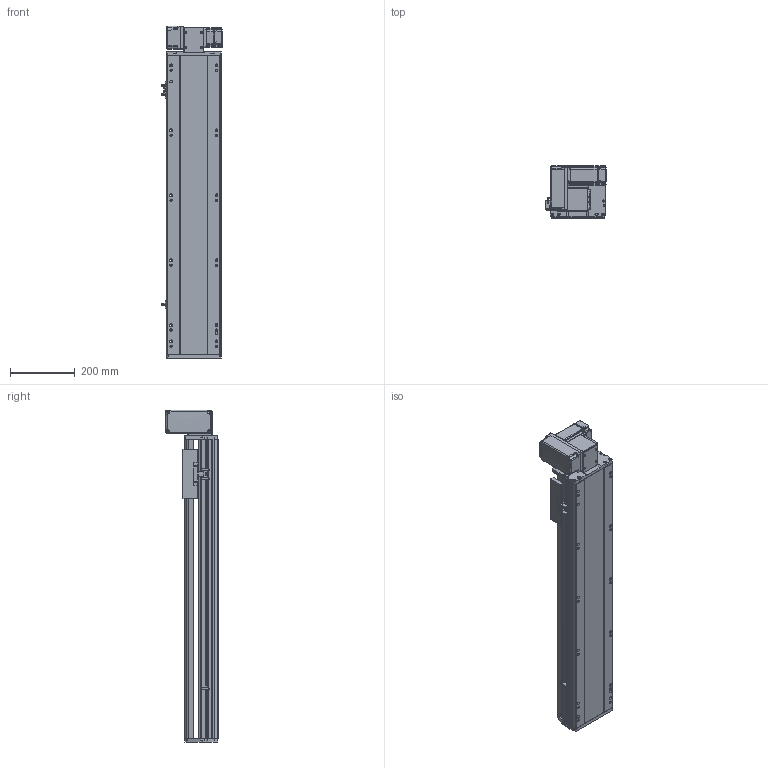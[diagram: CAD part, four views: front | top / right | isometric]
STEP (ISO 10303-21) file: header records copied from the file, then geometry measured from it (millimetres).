
FILE_DESCRIPTION (( 'STEP AP214' ), '1' );
FILE_NAME ('RTB17S-XX-650-LW-M40-C4.STEP', '2025-12-11T06:59:38', ( '' ), ( '' ), 'SwSTEP 2.0', 'SolidWorks 2018', '' );
FILE_SCHEMA (( 'AUTOMOTIVE_DESIGN' ));
Length unit declared in the file: millimetre
Products named in the file (14): RTB14-L-017P^RTB17S-LW-々湍釱蚾饜-400W_RTB17S-XX-XX-LW-M40-C4; RTB17S-L-014-T20--々湍釱^RTB17S-LW-々湍釱蚾饜-400W_RTB17S-XX-XX-LW-M40-C4; RTB17S-L-004佪裝蹟譫蟀諉釱^RTB17S-XX-XX-LW-M40-C4; RTH13-BL-012覜茼え俋离^RTB17S-XX-XX-LW-M40-C4; OMRON EE-SX672 传感器^RTB17S-XX-XX-LW-M40-C4; RTB17-R-011菁釱^RTB17S-XX-XX-LW-M40-C4; RTB17S-L-007奻裔^RTB17S-XX-XX-LW-M40-C4; 400W侜督萇儂^RTB17S-XX-XX-LW-M40-C4; RTB17S-XX-650-LW-M40-C4; RTB17S-LW-々湍釱蚾饜-400W^RTB17S-XX-XX-LW-M40-C4; RTB14-L-018P^RTB17S-LW-々湍釱蚾饜-400W_RTB17S-XX-XX-LW-M40-C4; RTB17S-L-001耜醱啣^RTB17S-XX-XX-LW-M40-C4; RTB14-L-005P--轴承塑胶压盖^RTB17S-LW-皮带座装配-400W_RTB17S-XX-XX-LW-M40-C4; RTB14-L-008-M20--萇儂啣^RTB17S-LW-々湍釱蚾饜-400W_RTB17S-XX-XX-LW-M40-C4
Assembly tree (16 placements, depth 3):
  RTB17S-XX-650-LW-M40-C4
    RTB17-R-011菁釱^RTB17S-XX-XX-LW-M40-C4
    RTB17S-L-007奻裔^RTB17S-XX-XX-LW-M40-C4
    OMRON EE-SX672 传感器^RTB17S-XX-XX-LW-M40-C4  x3
    RTB17S-L-001耜醱啣^RTB17S-XX-XX-LW-M40-C4
    400W侜督萇儂^RTB17S-XX-XX-LW-M40-C4
    RTB17S-L-004佪裝蹟譫蟀諉釱^RTB17S-XX-XX-LW-M40-C4
    RTH13-BL-012覜茼え俋离^RTB17S-XX-XX-LW-M40-C4
    RTB17S-LW-々湍釱蚾饜-400W^RTB17S-XX-XX-LW-M40-C4
      RTB17S-L-014-T20--々湍釱^RTB17S-LW-々湍釱蚾饜-400W_RTB17S-XX-XX-LW-M40-C4
      RTB14-L-005P--轴承塑胶压盖^RTB17S-LW-皮带座装配-400W_RTB17S-XX-XX-LW-M40-C4
      RTB14-L-008-M20--萇儂啣^RTB17S-LW-々湍釱蚾饜-400W_RTB17S-XX-XX-LW-M40-C4
      RTB14-L-017P^RTB17S-LW-々湍釱蚾饜-400W_RTB17S-XX-XX-LW-M40-C4  x2
      RTB14-L-018P^RTB17S-LW-々湍釱蚾饜-400W_RTB17S-XX-XX-LW-M40-C4
Bounding box: 186 x 160.5 x 1022.5 mm (x, y, z)
Volume: 9514907.8 mm3; surface area: 1188611.5 mm2
Topology: 15 solids, 15 shells, 2189 faces, 6033 edges, 3933 vertices
Faces by surface type: plane 1066, cylinder 675, bspline 301, cone 139, torus 8
Entity records: 61865 total; most frequent: CARTESIAN_POINT 17238, ORIENTED_EDGE 8910, DIRECTION 8306, EDGE_CURVE 4455, VERTEX_POINT 2921, AXIS2_PLACEMENT_3D 2851, VECTOR 2604, LINE 2604
